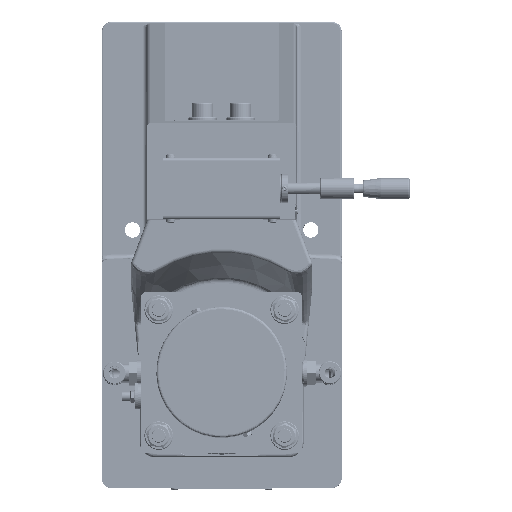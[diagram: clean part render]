
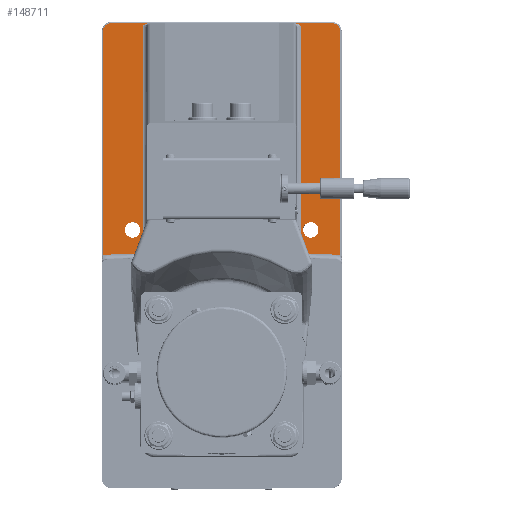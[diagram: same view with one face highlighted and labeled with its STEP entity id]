
A CAD part, top view. The second image highlights one B-rep face of the part: STEP entity #148711.
In plain terms, the highlighted planar face has unit normal (0, 0, 1).
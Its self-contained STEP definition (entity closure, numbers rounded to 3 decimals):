
#9093=LINE('',#217464,#23130);
#9224=LINE('',#218522,#23261);
#9225=LINE('',#218604,#23262);
#9227=LINE('',#218606,#23264);
#9229=LINE('',#218618,#23266);
#9246=LINE('',#218747,#23283);
#9247=LINE('',#218748,#23284);
#9248=LINE('',#218752,#23285);
#9249=LINE('',#218755,#23286);
#23130=VECTOR('',#173746,183.48);
#23261=VECTOR('',#174379,188.744);
#23262=VECTOR('',#174392,31.61);
#23264=VECTOR('',#174394,31.61);
#23266=VECTOR('',#174408,188.744);
#23283=VECTOR('',#174443,133.);
#23284=VECTOR('',#174444,183.48);
#23285=VECTOR('',#174447,96.075);
#23286=VECTOR('',#174450,96.075);
#31943=B_SPLINE_CURVE_WITH_KNOTS('',3,(#217336,#217337,#217338,#217339,
#217340,#217341,#217342,#217343),.UNSPECIFIED.,.F.,.F.,(4,2,2,4),(-0.001,
0.,0.358,0.52),.UNSPECIFIED.);
#31945=B_SPLINE_CURVE_WITH_KNOTS('',3,(#217398,#217399,#217400,#217401,
#217402,#217403,#217404,#217405,#217406,#217407),.UNSPECIFIED.,.F.,.F.,
(4,2,2,2,4),(0.,0.162,0.37,0.581,0.582),
 .UNSPECIFIED.);
#36370=FACE_BOUND('',#49069,.T.);
#36371=FACE_BOUND('',#49070,.T.);
#40749=FACE_OUTER_BOUND('',#49068,.T.);
#49068=EDGE_LOOP('',(#108602,#108603,#108604,#108605,#108606,#108607,#108608,
#108609,#108610,#108611,#108612,#108613,#108614,#108615,#108616,#108617));
#49069=EDGE_LOOP('',(#108618));
#49070=EDGE_LOOP('',(#108619));
#55903=CIRCLE('',#156762,7.);
#55907=CIRCLE('',#156768,7.);
#55910=CIRCLE('',#156774,9.);
#55915=CIRCLE('',#156781,9.);
#55916=CIRCLE('',#156782,9.);
#55917=CIRCLE('',#156783,6.5);
#55918=CIRCLE('',#156784,6.5);
#62710=VERTEX_POINT('',#217334);
#62711=VERTEX_POINT('',#217335);
#62715=VERTEX_POINT('',#217353);
#62717=VERTEX_POINT('',#217397);
#62718=VERTEX_POINT('',#217451);
#62845=VERTEX_POINT('',#218515);
#62848=VERTEX_POINT('',#218520);
#62851=VERTEX_POINT('',#218596);
#62853=VERTEX_POINT('',#218602);
#62855=VERTEX_POINT('',#218610);
#62857=VERTEX_POINT('',#218616);
#62871=VERTEX_POINT('',#218732);
#62876=VERTEX_POINT('',#218746);
#62877=VERTEX_POINT('',#218749);
#62878=VERTEX_POINT('',#218751);
#62879=VERTEX_POINT('',#218753);
#62880=VERTEX_POINT('',#218756);
#62881=VERTEX_POINT('',#218758);
#79304=EDGE_CURVE('',#62710,#62711,#31943,.T.);
#79317=EDGE_CURVE('',#62717,#62715,#31945,.F.);
#79321=EDGE_CURVE('',#62718,#62717,#9093,.T.);
#79581=EDGE_CURVE('',#62848,#62845,#9224,.T.);
#79585=EDGE_CURVE('',#62851,#62848,#55903,.T.);
#79588=EDGE_CURVE('',#62853,#62711,#9225,.T.);
#79590=EDGE_CURVE('',#62715,#62851,#9227,.T.);
#79593=EDGE_CURVE('',#62855,#62853,#55907,.T.);
#79596=EDGE_CURVE('',#62857,#62855,#9229,.T.);
#79613=EDGE_CURVE('',#62845,#62871,#55910,.T.);
#79620=EDGE_CURVE('',#62876,#62718,#9246,.T.);
#79621=EDGE_CURVE('',#62710,#62876,#9247,.T.);
#79622=EDGE_CURVE('',#62877,#62857,#55915,.T.);
#79623=EDGE_CURVE('',#62878,#62877,#9248,.T.);
#79624=EDGE_CURVE('',#62879,#62878,#55916,.T.);
#79625=EDGE_CURVE('',#62871,#62879,#9249,.T.);
#79626=EDGE_CURVE('',#62880,#62880,#55917,.T.);
#79627=EDGE_CURVE('',#62881,#62881,#55918,.T.);
#108602=ORIENTED_EDGE('',*,*,#79581,.F.);
#108603=ORIENTED_EDGE('',*,*,#79585,.F.);
#108604=ORIENTED_EDGE('',*,*,#79590,.F.);
#108605=ORIENTED_EDGE('',*,*,#79317,.F.);
#108606=ORIENTED_EDGE('',*,*,#79321,.F.);
#108607=ORIENTED_EDGE('',*,*,#79620,.F.);
#108608=ORIENTED_EDGE('',*,*,#79621,.F.);
#108609=ORIENTED_EDGE('',*,*,#79304,.T.);
#108610=ORIENTED_EDGE('',*,*,#79588,.F.);
#108611=ORIENTED_EDGE('',*,*,#79593,.F.);
#108612=ORIENTED_EDGE('',*,*,#79596,.F.);
#108613=ORIENTED_EDGE('',*,*,#79622,.F.);
#108614=ORIENTED_EDGE('',*,*,#79623,.F.);
#108615=ORIENTED_EDGE('',*,*,#79624,.F.);
#108616=ORIENTED_EDGE('',*,*,#79625,.F.);
#108617=ORIENTED_EDGE('',*,*,#79613,.F.);
#108618=ORIENTED_EDGE('',*,*,#79626,.T.);
#108619=ORIENTED_EDGE('',*,*,#79627,.T.);
#134820=PLANE('',#156780);
#148711=ADVANCED_FACE('',(#40749,#36370,#36371),#134820,.T.);
#156762=AXIS2_PLACEMENT_3D('',#218598,#174384,#174385);
#156768=AXIS2_PLACEMENT_3D('',#218612,#174400,#174401);
#156774=AXIS2_PLACEMENT_3D('',#218733,#174427,#174428);
#156780=AXIS2_PLACEMENT_3D('',#218745,#174441,#174442);
#156781=AXIS2_PLACEMENT_3D('',#218750,#174445,#174446);
#156782=AXIS2_PLACEMENT_3D('',#218754,#174448,#174449);
#156783=AXIS2_PLACEMENT_3D('',#218757,#174451,#174452);
#156784=AXIS2_PLACEMENT_3D('',#218759,#174453,#174454);
#173746=DIRECTION('',(0.,1.,0.));
#174379=DIRECTION('',(0.,-1.,0.));
#174384=DIRECTION('center_axis',(0.,0.,
-1.));
#174385=DIRECTION('ref_axis',(0.707,0.707,0.));
#174392=DIRECTION('',(1.,0.,0.));
#174394=DIRECTION('',(1.,0.,0.));
#174400=DIRECTION('center_axis',(0.,0.,
-1.));
#174401=DIRECTION('ref_axis',(-0.707,0.707,0.));
#174408=DIRECTION('',(0.,1.,0.));
#174427=DIRECTION('center_axis',(0.,0.,
1.));
#174428=DIRECTION('ref_axis',(0.721,0.693,0.));
#174441=DIRECTION('center_axis',(0.,0.,
1.));
#174442=DIRECTION('ref_axis',(1.,0.,0.));
#174443=DIRECTION('',(1.,0.,0.));
#174444=DIRECTION('',(0.,-1.,0.));
#174445=DIRECTION('center_axis',(0.,0.,
1.));
#174446=DIRECTION('ref_axis',(-0.721,0.693,0.));
#174447=DIRECTION('',(-0.999,-0.04,0.));
#174448=DIRECTION('center_axis',(0.,0.,
1.));
#174449=DIRECTION('ref_axis',(0.,1.,0.));
#174450=DIRECTION('',(-0.999,0.04,0.));
#174451=DIRECTION('center_axis',(0.,0.,
-1.));
#174452=DIRECTION('ref_axis',(1.,0.,0.));
#174453=DIRECTION('center_axis',(0.,0.,
-1.));
#174454=DIRECTION('ref_axis',(1.,0.,0.));
#217334=CARTESIAN_POINT('',(-66.5,195.98,47.));
#217335=CARTESIAN_POINT('',(-61.39,198.5,47.));
#217336=CARTESIAN_POINT('Ctrl Pts',(-66.5,195.98,47.));
#217337=CARTESIAN_POINT('Ctrl Pts',(-66.497,195.982,
47.));
#217338=CARTESIAN_POINT('Ctrl Pts',(-66.495,195.985,
47.));
#217339=CARTESIAN_POINT('Ctrl Pts',(-65.615,196.799,
47.));
#217340=CARTESIAN_POINT('Ctrl Pts',(-64.539,197.685,
47.));
#217341=CARTESIAN_POINT('Ctrl Pts',(-62.635,198.376,
47.));
#217342=CARTESIAN_POINT('Ctrl Pts',(-62.017,198.5,47.));
#217343=CARTESIAN_POINT('Ctrl Pts',(-61.39,198.5,47.));
#217353=CARTESIAN_POINT('',(61.39,198.5,47.));
#217397=CARTESIAN_POINT('',(66.5,195.98,47.));
#217398=CARTESIAN_POINT('Ctrl Pts',(61.39,198.5,47.));
#217399=CARTESIAN_POINT('Ctrl Pts',(61.931,198.5,47.));
#217400=CARTESIAN_POINT('Ctrl Pts',(62.467,198.408,47.));
#217401=CARTESIAN_POINT('Ctrl Pts',(63.645,198.035,47.));
#217402=CARTESIAN_POINT('Ctrl Pts',(64.262,197.715,47.));
#217403=CARTESIAN_POINT('Ctrl Pts',(65.431,196.93,47.));
#217404=CARTESIAN_POINT('Ctrl Pts',(65.965,196.475,47.));
#217405=CARTESIAN_POINT('Ctrl Pts',(66.495,195.985,47.));
#217406=CARTESIAN_POINT('Ctrl Pts',(66.497,195.982,47.));
#217407=CARTESIAN_POINT('Ctrl Pts',(66.5,195.98,47.));
#217451=CARTESIAN_POINT('',(66.5,12.5,47.));
#217464=CARTESIAN_POINT('',(66.5,23.,47.));
#218515=CARTESIAN_POINT('',(100.,2.756,47.));
#218520=CARTESIAN_POINT('',(100.,191.5,47.));
#218522=CARTESIAN_POINT('',(100.,101.5,47.));
#218596=CARTESIAN_POINT('',(93.,198.5,47.));
#218598=CARTESIAN_POINT('Origin',(93.,191.5,47.));
#218602=CARTESIAN_POINT('',(-93.,198.5,47.));
#218604=CARTESIAN_POINT('',(31.5,198.5,47.));
#218606=CARTESIAN_POINT('',(31.5,198.5,47.));
#218610=CARTESIAN_POINT('',(-100.,191.5,47.));
#218612=CARTESIAN_POINT('Origin',(-93.,191.5,47.));
#218616=CARTESIAN_POINT('',(-100.,2.756,47.));
#218618=CARTESIAN_POINT('',(-100.,-94.5,47.));
#218732=CARTESIAN_POINT('',(96.356,3.687,47.));
#218733=CARTESIAN_POINT('Origin',(96.,-5.306,47.));
#218745=CARTESIAN_POINT('Origin',(0.,3.5,
47.));
#218746=CARTESIAN_POINT('',(-66.5,12.5,47.));
#218747=CARTESIAN_POINT('',(-31.5,12.5,47.));
#218748=CARTESIAN_POINT('',(-66.5,101.,47.));
#218749=CARTESIAN_POINT('',(-96.356,3.687,47.));
#218750=CARTESIAN_POINT('Origin',(-96.,-5.306,47.));
#218751=CARTESIAN_POINT('',(-0.356,7.489,47.));
#218752=CARTESIAN_POINT('',(-50.658,5.497,47.));
#218753=CARTESIAN_POINT('',(0.356,7.489,47.));
#218754=CARTESIAN_POINT('Origin',(0.,-1.504,
47.));
#218755=CARTESIAN_POINT('',(0.158,7.497,47.));
#218756=CARTESIAN_POINT('',(-68.5,24.5,47.));
#218757=CARTESIAN_POINT('Origin',(-75.,24.5,47.));
#218758=CARTESIAN_POINT('',(81.5,24.5,47.));
#218759=CARTESIAN_POINT('Origin',(75.,24.5,47.));
